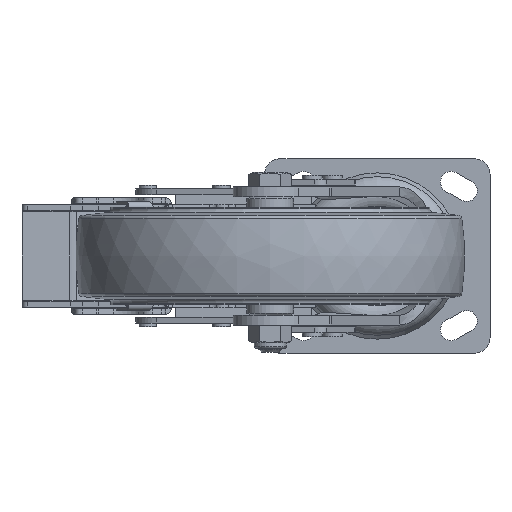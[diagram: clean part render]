
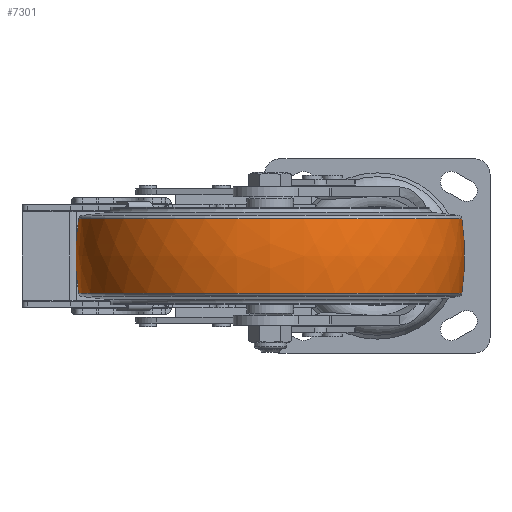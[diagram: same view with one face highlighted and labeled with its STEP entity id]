
A CAD part, front view. The second image highlights one B-rep face of the part: STEP entity #7301.
In plain terms, the highlighted free-form (B-spline) face has degree [3, 3] with [7, 4] control points.
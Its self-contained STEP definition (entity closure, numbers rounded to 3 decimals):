
#5374=CARTESIAN_POINT('',(-19.172,0.,0.));
#5375=DIRECTION('',(-1.,0.,0.));
#5376=DIRECTION('',(0.,1.,0.));
#5377=AXIS2_PLACEMENT_3D('',#5374,#5375,#5376);
#5379=CARTESIAN_POINT('',(0.,-26.741,0.));
#5380=DIRECTION('',(0.,0.,1.));
#5381=DIRECTION('',(0.151,0.988,0.));
#5382=AXIS2_PLACEMENT_3D('',#5379,#5380,#5381);
#5384=CARTESIAN_POINT('',(0.,26.741,0.));
#5385=DIRECTION('',(0.,0.,-1.));
#5386=DIRECTION('',(0.151,-0.988,0.));
#5387=AXIS2_PLACEMENT_3D('',#5384,#5385,#5386);
#5389=CARTESIAN_POINT('',(19.172,0.,0.));
#5390=DIRECTION('',(-1.,0.,0.));
#5391=DIRECTION('',(0.,1.,0.));
#5392=AXIS2_PLACEMENT_3D('',#5389,#5390,#5391);
#6080=CARTESIAN_POINT('',(19.172,98.542,
0.));
#6081=VERTEX_POINT('',#6080);
#6082=CARTESIAN_POINT('',(-19.172,98.542,
0.));
#6083=VERTEX_POINT('',#6082);
#6100=CARTESIAN_POINT('',(19.172,-98.542,
0.));
#6101=VERTEX_POINT('',#6100);
#6102=CARTESIAN_POINT('',(-19.172,-98.542,
0.));
#6103=VERTEX_POINT('',#6102);
#7263=CARTESIAN_POINT('',(-19.933,-98.229,
6.18));
#7264=CARTESIAN_POINT('',(-6.7,-100.332,
6.312));
#7265=CARTESIAN_POINT('',(6.7,-100.332,6.312));
#7266=CARTESIAN_POINT('',(19.933,-98.229,6.18));
#7267=CARTESIAN_POINT('',(-19.933,-102.032,
-54.27));
#7268=CARTESIAN_POINT('',(-6.7,-104.216,
-55.432));
#7269=CARTESIAN_POINT('',(6.7,-104.216,
-55.432));
#7270=CARTESIAN_POINT('',(19.933,-102.032,
-54.27));
#7271=CARTESIAN_POINT('',(-19.933,-60.569,
-98.423));
#7272=CARTESIAN_POINT('',(-6.7,-61.866,
-100.53));
#7273=CARTESIAN_POINT('',(6.7,-61.866,
-100.53));
#7274=CARTESIAN_POINT('',(19.933,-60.569,
-98.423));
#7275=CARTESIAN_POINT('',(-19.933,0.,
-98.423));
#7276=CARTESIAN_POINT('',(-6.7,0.,
-100.53));
#7277=CARTESIAN_POINT('',(6.7,0.,
-100.53));
#7278=CARTESIAN_POINT('',(19.933,0.,
-98.423));
#7279=CARTESIAN_POINT('',(-19.933,60.569,
-98.423));
#7280=CARTESIAN_POINT('',(-6.7,61.866,
-100.53));
#7281=CARTESIAN_POINT('',(6.7,61.866,-100.53));
#7282=CARTESIAN_POINT('',(19.933,60.569,-98.423));
#7283=CARTESIAN_POINT('',(-19.933,102.032,
-54.27));
#7284=CARTESIAN_POINT('',(-6.7,104.216,
-55.432));
#7285=CARTESIAN_POINT('',(6.7,104.216,-55.432));
#7286=CARTESIAN_POINT('',(19.933,102.032,-54.27));
#7287=CARTESIAN_POINT('',(-19.933,98.229,6.18));
#7288=CARTESIAN_POINT('',(-6.7,100.332,6.312));
#7289=CARTESIAN_POINT('',(6.7,100.332,6.312));
#7290=CARTESIAN_POINT('',(19.933,98.229,6.18));
#7291=(BOUNDED_SURFACE()B_SPLINE_SURFACE(3,3,((#7263,#7264,#7265,#7266),(#7267,
#7268,#7269,#7270),(#7271,#7272,#7273,#7274),(#7275,#7276,#7277,#7278),(#7279,
#7280,#7281,#7282),(#7283,#7284,#7285,#7286),(#7287,#7288,#7289,#7290)),
.UNSPECIFIED.,.F.,.F.,.F.)B_SPLINE_SURFACE_WITH_KNOTS((4,3,4),(4,4),(0.,1.,
2.),(0.,1.),.UNSPECIFIED.)GEOMETRIC_REPRESENTATION_ITEM()RATIONAL_B_SPLINE_SURFACE(((1.195,1.185,1.185,1.195),(
0.943,0.936,0.936,0.943),(
0.943,0.936,0.936,0.943),(
1.195,1.185,1.185,1.195),(
0.943,0.936,0.936,0.943),(
0.943,0.936,0.936,0.943),(
1.195,1.185,1.185,1.195)))REPRESENTATION_ITEM('')SURFACE());
#7293=ORIENTED_EDGE('',*,*,#7292,.T.);
#7294=ORIENTED_EDGE('',*,*,#7258,.T.);
#7296=ORIENTED_EDGE('',*,*,#7295,.F.);
#7298=ORIENTED_EDGE('',*,*,#7297,.F.);
#7299=EDGE_LOOP('',(#7293,#7294,#7296,#7298));
#7300=FACE_OUTER_BOUND('',#7299,.F.);
#5378=CIRCLE('',#5377,98.542);
#5383=CIRCLE('',#5382,126.741);
#5388=CIRCLE('',#5387,126.741);
#5393=CIRCLE('',#5392,98.542);
#7258=EDGE_CURVE('',#6083,#6103,#5378,.T.);
#7292=EDGE_CURVE('',#6081,#6083,#5383,.T.);
#7295=EDGE_CURVE('',#6101,#6103,#5388,.T.);
#7297=EDGE_CURVE('',#6081,#6101,#5393,.T.);
#7301=ADVANCED_FACE('',(#7300),#7291,.T.);
